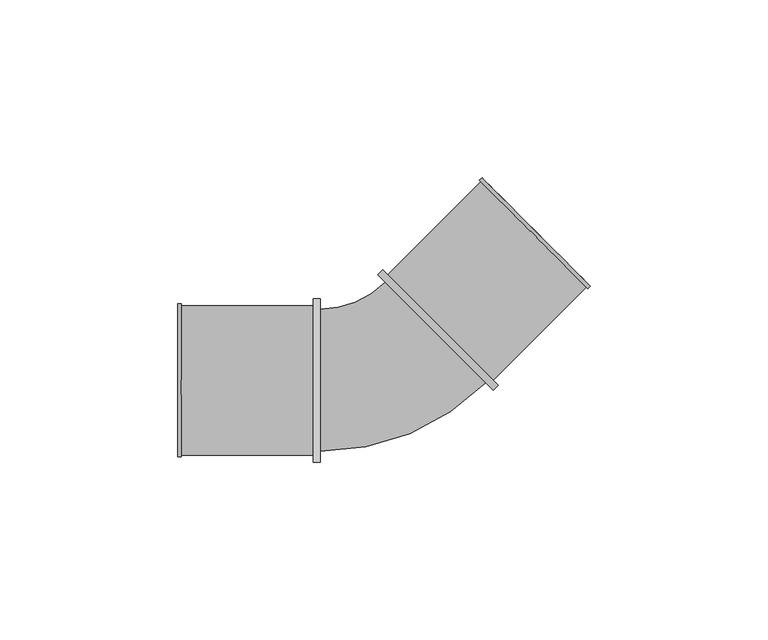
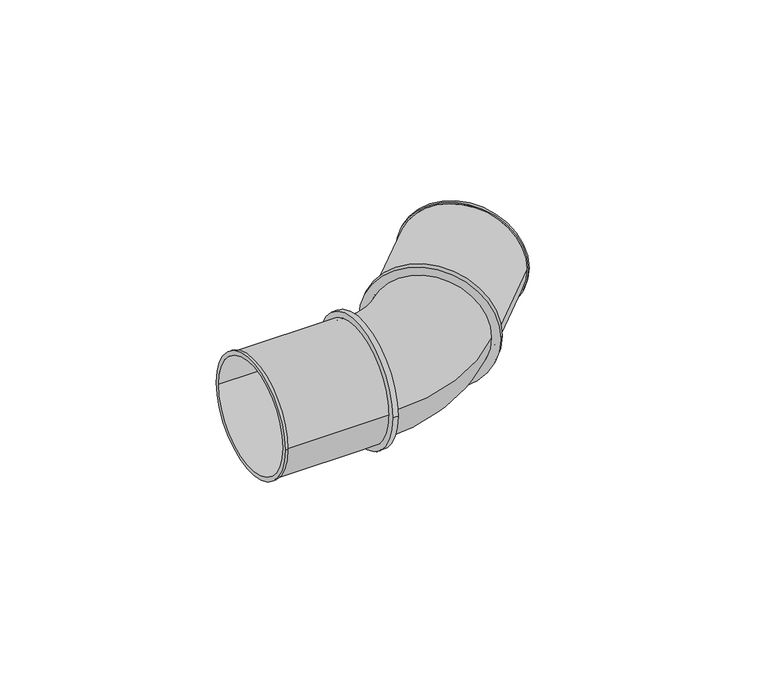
"""IFC4 building model written with IfcOpenShell, lengths in millimetres: pipe fitting geometry, SuperPipe_Elbow_SPressPlus : SuperPipe_Elbow_SPressPlus."""

from ifc_helpers import new_model, si_unit, point, frame, origin, origin_2d, place, context, project, spatial, polyline, circle_curve, ellipse_curve, trimmed, segment, composite_curve, outline, extrude, source, transform, mapped, element, save
from ifc_brep_helpers import plane_surface, cylinder_surface, revolved_surface, advanced_brep


def pipe_fitting_b58f9e6b(model_context):
    return source(origin(), model_context, "Body", "SolidModel", [
        extrude(outline(composite_curve([segment(trimmed(circle_curve(origin_2d(), 23.0), [point((-23.0, 0.0))], [point((23.0, 0.0))], False, "CARTESIAN"), True, "CONTINUOUS"), segment(trimmed(circle_curve(origin_2d(), 23.0), [point((23.0, 0.0))], [point((-23.0, 0.0))], False, "CARTESIAN"), True, "CONTINUOUS")], self_intersect=False), holes=[composite_curve([segment(trimmed(circle_curve(origin_2d(), 20.0), [point((-20.0, 0.0))], [point((20.0, 0.0))], True, "CARTESIAN"), True, "CONTINUOUS"), segment(trimmed(circle_curve(origin_2d(), 20.0), [point((20.0, 0.0))], [point((-20.0, 0.0))], True, "CARTESIAN"), True, "CONTINUOUS")], self_intersect=False)]), frame((-21.0, 0.0, 0.0), z_axis=(1.0, 0.0, 0.0), x_axis=(0.0, 1.0, 0.0)), (0.0, 0.0, 1.0), 2.0),
        extrude(outline(composite_curve([segment(trimmed(circle_curve(origin_2d(), 23.0), [point((0.0, -23.0))], [point((0.0, 23.0))], False, "CARTESIAN"), True, "CONTINUOUS"), segment(trimmed(circle_curve(origin_2d(), 23.0), [point((0.0, 23.0))], [point((0.0, -23.0))], False, "CARTESIAN"), True, "CONTINUOUS")], self_intersect=False), holes=[composite_curve([segment(trimmed(circle_curve(origin_2d(), 20.0), [point((0.0, 20.0))], [point((0.0, -20.0))], True, "CARTESIAN"), True, "CONTINUOUS"), segment(trimmed(circle_curve(origin_2d(), 20.0), [point((0.0, -20.0))], [point((0.0, 20.0))], True, "CARTESIAN"), True, "CONTINUOUS")], self_intersect=False)]), frame((13.4350288, 13.4350288, 0.0), z_axis=(0.7071067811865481, 0.707106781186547, 0.0), x_axis=(0.0, 0.0, -1.0)), (0.0, 0.0, 1.0), 2.0),
        advanced_brep(
        [(-59.0, -21.5, 0.0), (-59.0, 21.5, 0.0), (-59.0, -20.0, 0.0), (-59.0, 20.0, 0.0), (-21.0, -21.0, 0.0), (-21.0, 21.0, 0.0), (-21.0, -20.0, 0.0), (-21.0, 20.0, 0.0), (-58.0, 21.0, 0.0), (-58.0, -21.0, 0.0), (-58.0, -21.5, 0.0), (-58.0, 21.5, 0.0)],
        [
            (0, 1, circle_curve(frame((-59.0, 0.0, 0.0), z_axis=(-1.0, 0.0, 0.0), x_axis=(0.0, 1.0, 0.0)), 21.5)),
            (1, 0, circle_curve(frame((-59.0, 0.0, 0.0), z_axis=(-1.0, 0.0, 0.0), x_axis=(0.0, 1.0, 0.0)), 21.5)),
            (2, 3, circle_curve(frame((-59.0, 0.0, 0.0), z_axis=(1.0, 0.0, 0.0), x_axis=(0.0, 1.0, 0.0)), 20.0)),
            (3, 2, circle_curve(frame((-59.0, 0.0, 0.0), z_axis=(1.0, 0.0, 0.0), x_axis=(0.0, 1.0, 0.0)), 20.0)),
            (4, 5, circle_curve(frame((-21.0, 0.0, 0.0), z_axis=(1.0, 0.0, 0.0), x_axis=(0.0, 1.0, 0.0)), 21.0)),
            (5, 4, circle_curve(frame((-21.0, 0.0, 0.0), z_axis=(1.0, 0.0, 0.0), x_axis=(0.0, 1.0, 0.0)), 21.0)),
            (6, 7, circle_curve(frame((-21.0, 0.0, 0.0), z_axis=(-1.0, 0.0, 0.0), x_axis=(0.0, 1.0, 0.0)), 20.0)),
            (7, 6, circle_curve(frame((-21.0, 0.0, 0.0), z_axis=(-1.0, 0.0, 0.0), x_axis=(0.0, 1.0, 0.0)), 20.0)),
            (2, 6),
            (7, 3),
            (5, 8),
            (8, 9, circle_curve(frame((-58.0, 0.0, 0.0), z_axis=(1.0, 0.0, 0.0), x_axis=(0.0, 1.0, 0.0)), 21.0)),
            (9, 4),
            (9, 8, circle_curve(frame((-58.0, 0.0, 0.0), z_axis=(1.0, 0.0, 0.0), x_axis=(0.0, 1.0, 0.0)), 21.0)),
            (10, 11, circle_curve(frame((-58.0, 0.0, 0.0), z_axis=(1.0, 0.0, 0.0), x_axis=(0.0, 1.0, 0.0)), 21.5)),
            (11, 10, circle_curve(frame((-58.0, 0.0, 0.0), z_axis=(1.0, 0.0, 0.0), x_axis=(0.0, 1.0, 0.0)), 21.5)),
            (0, 10),
            (11, 1),
        ],
        [
            plane_surface(frame((-59.0, 0.0, 0.0), z_axis=(-1.0, 0.0, 0.0), x_axis=(0.0, 0.0, 1.0))),
            plane_surface(frame((-21.0, 0.0, 0.0), z_axis=(1.0, 0.0, 0.0), x_axis=(0.0, 0.0, 1.0))),
            revolved_surface(polyline([(-21.0, 20.0, 0.0), (-59.0, 20.0, 0.0)]), (-59.0, 0.0, 0.0), (1.0, 0.0, 0.0)),
            cylinder_surface(frame((-59.0, 0.0, 0.0), z_axis=(-1.0, 0.0, 0.0), x_axis=(0.0, 1.0, 0.0)), 21.0),
            plane_surface(frame((-58.0, 0.0, 0.0), z_axis=(1.0, 0.0, 0.0), x_axis=(0.0, 0.0, 1.0))),
            cylinder_surface(frame((-59.0, 0.0, 0.0), z_axis=(-1.0, 0.0, 0.0), x_axis=(0.0, 1.0, 0.0)), 21.5),
        ],
        [
            (0, [[1, 2], [3, 4]]),
            (1, [[5, 6], [7, 8]]),
            (2, [[-3, 9, -8, 10]]),
            (2, [[-4, -10, -7, -9]]),
            (3, [[-6, 11, 12, 13]]),
            (3, [[-5, -13, 14, -11]]),
            (4, [[15, 16], [-12, -14]]),
            (5, [[-1, 17, -16, 18]]),
            (5, [[-2, -18, -15, -17]]),
        ],
    ),
        advanced_brep(
        [(29.6984848, 0.0, 0.0), (0.0, 29.6984848, 0.0), (28.991378, 0.7071068, 0.0), (0.7071068, 28.991378, 0.0), (56.9220959, 26.5165043, 0.0), (26.5165043, 56.9220959, 0.0), (55.8614357, 27.5771645, 0.0), (27.5771645, 55.8614357, 0.0), (55.8614357, 26.1629509, 0.0), (26.1629509, 55.8614357, 0.0), (56.2149891, 25.8093975, 0.0), (25.8093975, 56.2149891, 0.0)],
        [
            (0, 1, circle_curve(frame((14.8492424, 14.8492424, 0.0), z_axis=(-0.7071067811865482, -0.7071067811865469, 0.0), x_axis=(-0.7071067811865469, 0.7071067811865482, 0.0)), 21.0)),
            (1, 0, circle_curve(frame((14.8492424, 14.8492424, 0.0), z_axis=(-0.7071067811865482, -0.7071067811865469, 0.0), x_axis=(-0.7071067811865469, 0.7071067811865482, 0.0)), 21.0)),
            (2, 3, circle_curve(frame((14.8492424, 14.8492424, 0.0), z_axis=(0.7071067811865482, 0.7071067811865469, 0.0), x_axis=(-0.7071067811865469, 0.7071067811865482, 0.0)), 20.0)),
            (3, 2, circle_curve(frame((14.8492424, 14.8492424, 0.0), z_axis=(0.7071067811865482, 0.7071067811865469, 0.0), x_axis=(-0.7071067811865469, 0.7071067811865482, 0.0)), 20.0)),
            (4, 5, circle_curve(frame((41.7193001, 41.7193001, 0.0), z_axis=(0.7071067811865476, 0.7071067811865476, 0.0), x_axis=(-0.7071067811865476, 0.7071067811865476, 0.0)), 21.5)),
            (5, 4, circle_curve(frame((41.7193001, 41.7193001, 0.0), z_axis=(0.7071067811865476, 0.7071067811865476, 0.0), x_axis=(-0.7071067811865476, 0.7071067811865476, 0.0)), 21.5)),
            (6, 7, circle_curve(frame((41.7193001, 41.7193001, 0.0), z_axis=(-0.7071067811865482, -0.7071067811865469, 0.0), x_axis=(-0.7071067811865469, 0.7071067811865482, 0.0)), 20.0)),
            (7, 6, circle_curve(frame((41.7193001, 41.7193001, 0.0), z_axis=(-0.7071067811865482, -0.7071067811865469, 0.0), x_axis=(-0.7071067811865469, 0.7071067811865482, 0.0)), 20.0)),
            (0, 8),
            (8, 9, circle_curve(frame((41.0121933, 41.0121933, 0.0), z_axis=(-0.7071067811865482, -0.7071067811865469, 0.0), x_axis=(-0.7071067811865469, 0.7071067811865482, 0.0)), 21.0)),
            (9, 1),
            (9, 8, circle_curve(frame((41.0121933, 41.0121933, 0.0), z_axis=(-0.7071067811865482, -0.7071067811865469, 0.0), x_axis=(-0.7071067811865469, 0.7071067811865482, 0.0)), 21.0)),
            (2, 6),
            (7, 3),
            (10, 11, circle_curve(frame((41.0121933, 41.0121933, 0.0), z_axis=(-0.7071067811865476, -0.7071067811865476, 0.0), x_axis=(-0.7071067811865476, 0.7071067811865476, 0.0)), 21.5)),
            (11, 10, circle_curve(frame((41.0121933, 41.0121933, 0.0), z_axis=(-0.7071067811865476, -0.7071067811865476, 0.0), x_axis=(-0.7071067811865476, 0.7071067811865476, 0.0)), 21.5)),
            (11, 5),
            (4, 10),
        ],
        [
            plane_surface(frame((14.8492424, 14.8492424, 0.0), z_axis=(-0.7071067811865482, -0.7071067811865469, 0.0), x_axis=(0.0, 0.0, 1.0))),
            plane_surface(frame((41.7193001, 41.7193001, 0.0), z_axis=(0.7071067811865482, 0.7071067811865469, 0.0), x_axis=(0.0, 0.0, 1.0))),
            cylinder_surface(frame((14.8492424, 14.8492424, 0.0), z_axis=(-0.7071067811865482, -0.7071067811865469, 0.0), x_axis=(-0.7071067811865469, 0.7071067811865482, 0.0)), 21.0),
            revolved_surface(polyline([(27.577164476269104, 55.86143572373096, 0.0), (0.7071067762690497, 28.991378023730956, 0.0)]), (14.8492424, 14.8492424, 0.0), (0.7071067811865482, 0.7071067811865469, 0.0)),
            plane_surface(frame((41.0121933, 41.0121933, 0.0), z_axis=(-0.7071067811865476, -0.7071067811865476, 0.0), x_axis=(0.0, 0.0, 1.0))),
            cylinder_surface(frame((41.0121933, 41.0121933, 0.0), z_axis=(-0.7071067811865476, -0.7071067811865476, 0.0), x_axis=(-0.7071067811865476, 0.7071067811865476, 0.0)), 21.5),
        ],
        [
            (0, [[1, 2], [3, 4]]),
            (1, [[5, 6], [7, 8]]),
            (2, [[-1, 9, 10, 11]]),
            (2, [[-2, -11, 12, -9]]),
            (3, [[-3, 13, -8, 14]]),
            (3, [[-4, -14, -7, -13]]),
            (4, [[15, 16], [-10, -12]]),
            (5, [[-16, 17, -5, 18]]),
            (5, [[-15, -18, -6, -17]]),
        ],
    ),
        advanced_brep(
        [(-19.0, -20.0, 0.0), (-19.0, 20.0, 0.0), (27.5771645, -0.7071068, 0.0), (-0.7071068, 27.5771645, 0.0)],
        [
            (0, 1, circle_curve(frame((-19.0, 0.0, 0.0), z_axis=(-1.0, 0.0, 0.0), x_axis=(0.0, 1.0, 0.0)), 20.0)),
            (1, 0, circle_curve(frame((-19.0, 0.0, 0.0), z_axis=(-1.0, 0.0, 0.0), x_axis=(0.0, 1.0, 0.0)), 20.0)),
            (2, 3, circle_curve(frame((13.4350288, 13.4350288, 0.0), z_axis=(0.7071067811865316, 0.7071067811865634, 0.0), x_axis=(-0.7071067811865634, 0.7071067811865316, 0.0)), 20.0)),
            (3, 2, circle_curve(frame((13.4350288, 13.4350288, 0.0), z_axis=(0.7071067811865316, 0.7071067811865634, 0.0), x_axis=(-0.7071067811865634, 0.7071067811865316, 0.0)), 20.0)),
            (3, 1, circle_curve(frame((-19.0, 45.8700577, 0.0), z_axis=(0.0, 0.0, -1.0), x_axis=(0.0, -1.0, 0.0)), 25.8700577)),
            (0, 2, circle_curve(frame((-19.0, 45.8700577, 0.0), z_axis=(0.0, 0.0, 1.0), x_axis=(0.0, -1.0, 0.0)), 65.8700577)),
        ],
        [
            plane_surface(frame((-19.0, 0.0, 0.0), z_axis=(-1.0, 0.0, 0.0), x_axis=(0.0, 0.0, 1.0))),
            plane_surface(frame((13.4350288, 13.4350288, 0.0), z_axis=(0.7071067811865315, 0.7071067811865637, 0.0), x_axis=(0.0, 0.0, 1.0))),
            revolved_surface(trimmed(ellipse_curve(frame((-19.0, 0.0, 0.0), z_axis=(-1.0, 0.0, 0.0), x_axis=(0.0, 1.0, 0.0)), 20.0, 20.0), [point((-19.0, -20.0, 0.0))], [point((-19.0, 20.0, 0.0))], True, "CARTESIAN"), (-19.0, 45.8700577, 0.0), (0.0, 0.0, 1.0)),
            revolved_surface(trimmed(ellipse_curve(frame((-19.0, 0.0, 0.0), z_axis=(-1.0, 0.0, 0.0), x_axis=(0.0, 1.0, 0.0)), 20.0, 20.0), [point((-19.0, 20.0, 0.0))], [point((-19.0, -20.0, 0.0))], True, "CARTESIAN"), (-19.0, 45.8700577, 0.0), (0.0, 0.0, 1.0)),
        ],
        [
            (0, [[1, 2]]),
            (1, [[3, 4]]),
            (2, [[5, -1, 6, -4]]),
            (3, [[-6, -2, -5, -3]]),
        ],
    ),
    ])


if __name__ == "__main__":
    model = new_model("IFC4")
    model_context = context("Model", 3, world=origin())
    ifc_project = project(units=[si_unit("LENGTHUNIT", "METRE", prefix="MILLI")], contexts=[model_context])
    site = spatial("IfcSite", under=ifc_project)
    building = spatial("IfcBuilding", under=site)
    placement = place(None, origin())
    pipe_fitting_shape = pipe_fitting_b58f9e6b(model_context)
    element("IfcPipeFitting", 1, ObjectType="SuperPipe_Elbow_SPressPlus : SuperPipe_Elbow_SPressPlus", at=placement, inside=building, context=model_context, shape_type="MappedRepresentation", body=[
        mapped(pipe_fitting_shape, transform((0.0, 0.0, 0.0), x_axis=(1.0, 0.0, 0.0), y_axis=(0.0, 1.0, 0.0), z_axis=(0.0, 0.0, 1.0))),
    ])
    save(model, "model.ifc")
